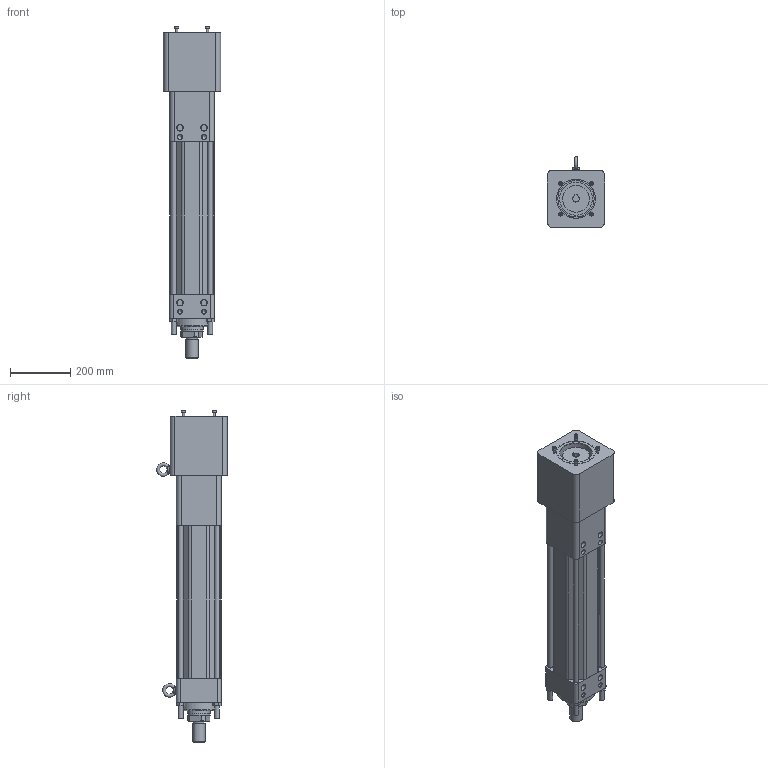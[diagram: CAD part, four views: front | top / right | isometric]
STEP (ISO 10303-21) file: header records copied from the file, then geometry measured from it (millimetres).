
FILE_DESCRIPTION (( 'STEP AP203' ), '1' );
FILE_NAME ('RSX10_RN12_SM300.000_RS-495412-1.step', '2025-08-19T19:12:51', ( '' ), ( '' ), 'SwSTEP 2.0', 'SolidWorks 2024', '' );
FILE_SCHEMA (( 'CONFIG_CONTROL_DESIGN' ));
Length unit declared in the file: inch
Products named in the file (3): RSX10_RN12_SM300.000_RS-495412-1; Base_RSX10_RN12_SM300.000_RS-495412-1; tempJoin2_21719005_RSX10_RN12_SM300.000_RS-495412-1
Assembly tree (2 placements, depth 2):
  RSX10_RN12_SM300.000_RS-495412-1
    tempJoin2_21719005_RSX10_RN12_SM300.000_RS-495412-1
    Base_RSX10_RN12_SM300.000_RS-495412-1
Bounding box: 190.5 x 235.94 x 1105.92 mm (x, y, z)
Volume: 17614034.4 mm3; surface area: 1461875.3 mm2
Topology: 6 solids, 20 shells, 663 faces, 1470 edges, 936 vertices
Faces by surface type: plane 375, cylinder 178, cone 84, torus 13, bspline 12, sphere 1
Full cylindrical faces by diameter (mm): 3.175 x3, 4.762 x1, 6.528 x4, 6.701 x4, 7.9 x1, 8 x5, 8.001 x4, 8.02 x2, 8.5 x6, 10.16 x6, 12 x4, 13 x4, 13.835 x2, 14 x4, 15.875 x9, 16.5 x6, 20.013 x4, 21 x4, 22.2 x4, 25 x2, 25.4 x1, 31.75 x1, 36.513 x2, 36.992 x1, 39.7 x1, 42 x1, 50.165 x1, 50.8 x1, 63.5 x1, 74.48 x1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
Entity records: 18888 total; most frequent: CARTESIAN_POINT 4898, DIRECTION 2943, ORIENTED_EDGE 2418, EDGE_CURVE 1209, AXIS2_PLACEMENT_3D 1148, EDGE_LOOP 952, VERTEX_POINT 861, FACE_OUTER_BOUND 779
